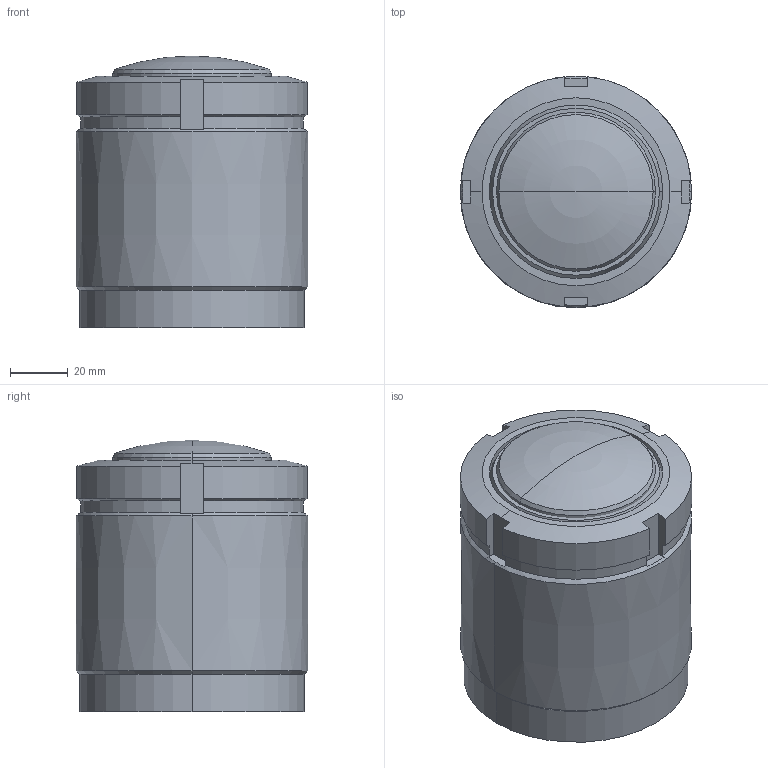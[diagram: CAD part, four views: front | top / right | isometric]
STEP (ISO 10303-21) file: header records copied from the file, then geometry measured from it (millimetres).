
FILE_DESCRIPTION((' '),'2;1');
FILE_NAME( 'TGP80-RM.x_t.stp', '2025-02-10T16:04:00', (' '), ('--- Datakit www.datakit.com---'), ' Datakit CrossCadWare V2024.1 Dec 21 2023', 'Mastercam 2025', ' ');
FILE_SCHEMA(('AUTOMOTIVE_DESIGN { 1 0 10303 214 1 1 1 1 }'));
Length unit declared in the file: millimetre
Products named in the file (1): TGP80-RM
Bounding box: 80 x 80 x 94 mm (x, y, z)
Volume: 489171.4 mm3; surface area: 43819.1 mm2
Topology: 2 solids, 2 shells, 73 faces, 181 edges, 115 vertices
Faces by surface type: plane 25, cone 22, cylinder 20, torus 4, sphere 2
Entity records: 2260 total; most frequent: CARTESIAN_POINT 504, DIRECTION 376, ORIENTED_EDGE 354, EDGE_CURVE 177, AXIS2_PLACEMENT_3D 155, VERTEX_POINT 115, CIRCLE 81, EDGE_LOOP 80
